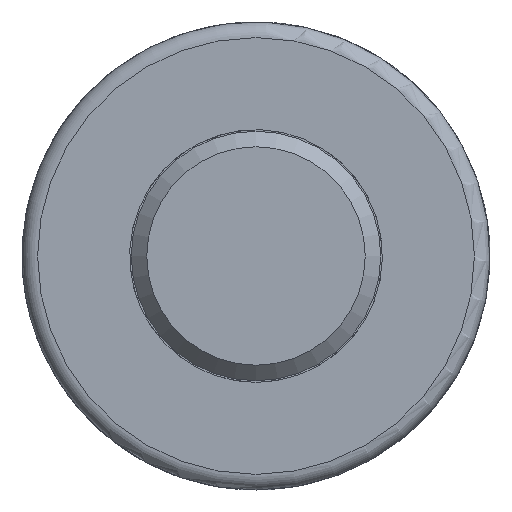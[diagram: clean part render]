
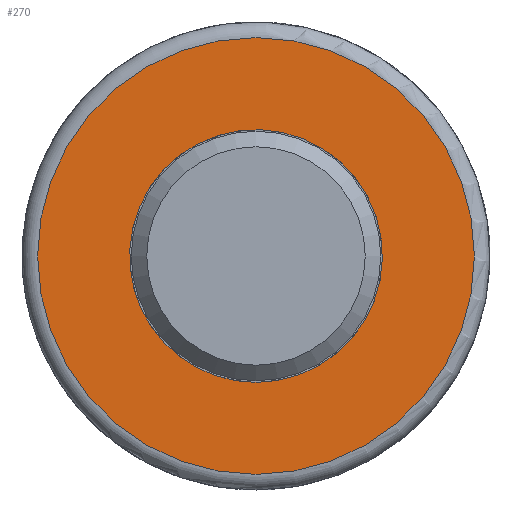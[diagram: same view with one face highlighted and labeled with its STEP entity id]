
A CAD part, front view. The second image highlights one B-rep face of the part: STEP entity #270.
In plain terms, the highlighted planar face has unit normal (0, -1, 0).
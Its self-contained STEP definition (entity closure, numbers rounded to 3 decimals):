
#270=ADVANCED_FACE('',(#355,#356),#306,.T.);
#306=PLANE('',#1103);
#323=CIRCLE('',#1096,4.05);
#328=CIRCLE('',#1102,7.);
#355=FACE_BOUND('',#407,.T.);
#356=FACE_BOUND('',#408,.T.);
#407=EDGE_LOOP('',(#623));
#408=EDGE_LOOP('',(#624));
#623=ORIENTED_EDGE('',*,*,#918,.T.);
#624=ORIENTED_EDGE('',*,*,#913,.F.);
#789=VERTEX_POINT('',#2449);
#790=VERTEX_POINT('',#2456);
#913=EDGE_CURVE('',#789,#789,#323,.T.);
#918=EDGE_CURVE('',#790,#790,#328,.T.);
#1096=AXIS2_PLACEMENT_3D('',#2448,#1295,#1296);
#1102=AXIS2_PLACEMENT_3D('',#2455,#1307,#1308);
#1103=AXIS2_PLACEMENT_3D('',#2457,#1309,#1310);
#1295=DIRECTION('',(0.,-1.,0.));
#1296=DIRECTION('',(0.,0.,-1.));
#1307=DIRECTION('',(0.,-1.,0.));
#1308=DIRECTION('',(0.,0.,-1.));
#1309=DIRECTION('',(0.,-1.,0.));
#1310=DIRECTION('',(1.,0.,0.));
#2448=CARTESIAN_POINT('',(0.,-14.978,0.022));
#2449=CARTESIAN_POINT('',(0.,-14.978,-4.028));
#2455=CARTESIAN_POINT('',(0.,-14.978,0.022));
#2456=CARTESIAN_POINT('',(0.,-14.978,-6.978));
#2457=CARTESIAN_POINT('',(0.,-14.978,0.022));
